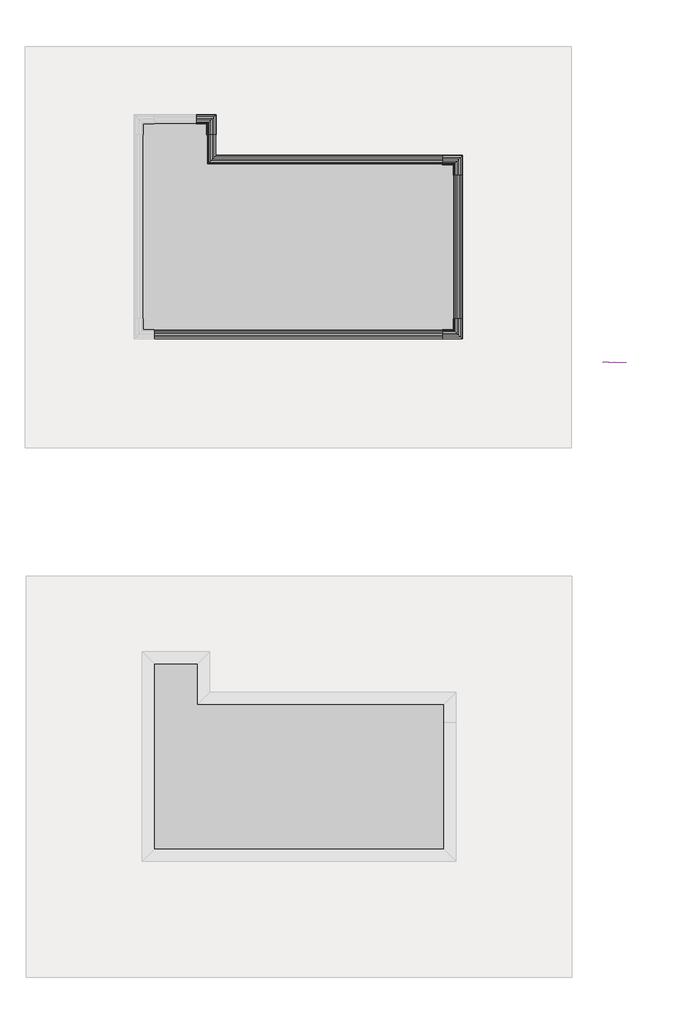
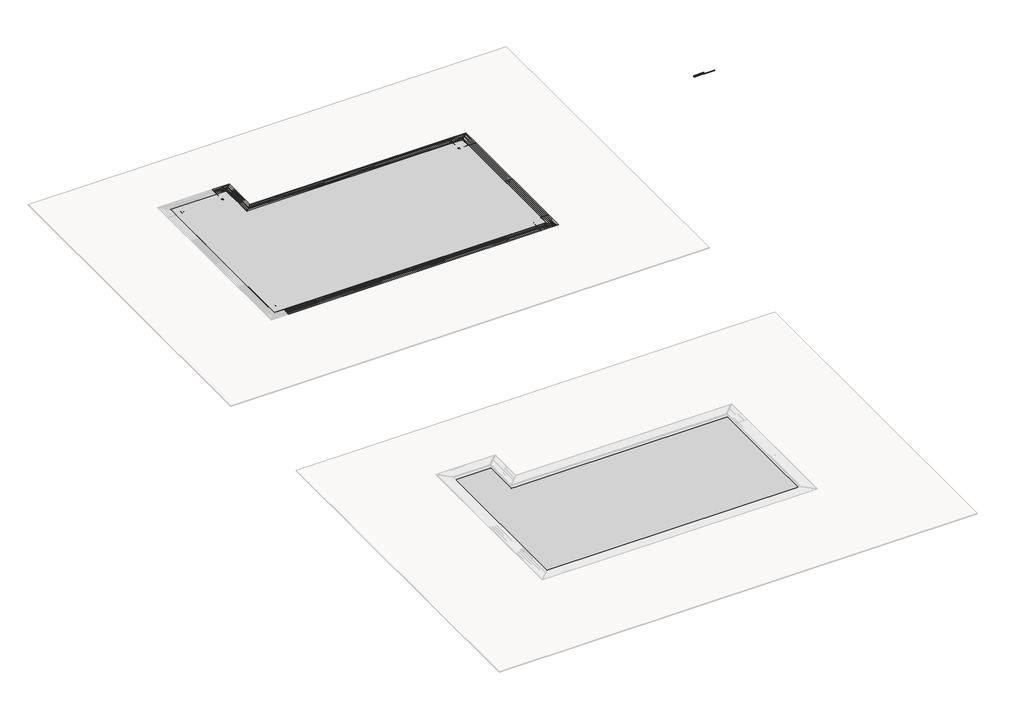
# One storey, part 7 of 8: 26 proxies.
"""IFC4 building model written with IfcOpenShell, lengths in millimetres."""

from ifc_helpers import new_model, si_unit, point, frame, frame_2d, origin, place, context, project, spatial, polyline, circle_curve, ellipse_curve, trimmed, segment, composite_curve, outline, extrude, faceted_brep, transform, mapped, element, save
from ifc_brep_helpers import plane_surface, revolved_surface, advanced_brep
from components import agua_piscina_11_agua_piscina_6_506d59ae, agua_piscina_7_agua_piscina_6_53fddf8e, roca_polar_33x3cm_504bcb03, roca_polar_33x4cm_2db79b40, roca_polar_33x4cm_158b5dbd, roca_polar_33x4cm_2f643e7a, roca_polar_33x4cm_c740a98f, roca_polar_33x4cm_f0a25715, roca_polar_33x4cm_b073b66c, roca_polar_33x4cm_9eef97b5, roca_polar_33x4cm_217610f2, roca_polar_4x4cm_b0f7cce5, roca_polar_corner_33x33cm_grating_24_5x33cm_6b5bcf94

model = new_model("IFC4")

# Units and contexts
model_context = context("Model", 3, world=origin())
ifc_project = project(units=[si_unit("LENGTHUNIT", "METRE", prefix="MILLI")], contexts=[model_context])

# Site, building, storey
site = spatial("IfcSite", under=ifc_project)
building = spatial("IfcBuilding", under=site)
storey = spatial("IfcBuildingStorey", under=building, Name="EXAGRES_ROCA POLAR Series_Pool_Examples", Elevation=14000.0)

# Proxies
placement = place(None, origin())
element("IfcBuildingElementProxy", 1, Name="Wall Sweeps", at=placement, inside=storey, context=model_context, shape_type="SweptSolid", body=[
    extrude(outline(polyline([(-5317.8185886, 13800.0), (-5127.8185886, 13800.0), (-5127.8185886, 14000.0), (-5097.8185886, 14000.0), (-5097.8185886, 13750.0), (-5347.8185886, 13750.0), (-5347.8185886, 14000.0), (-5317.8185886, 14000.0), (-5317.8185886, 13800.0)])), frame((14265.8202897, 0.0, 0.0), z_axis=(1.0, 0.0, 0.0), x_axis=(0.0, 1.0, 0.0)), (0.0, 0.0, 1.0), 6752.2),
])
element("IfcBuildingElementProxy", 2, Name="Wall Sweeps", at=placement, inside=storey, context=model_context, shape_type="AdvancedBrep", body=[
    advanced_brep(
    [(14721.9202897, -5147.8185886, 14015.0), (14716.9202897, -5152.8185886, 14015.0), (14701.9202897, -5167.8185886, 14000.0), (14641.9202897, -5227.8185886, 14000.0), (14626.9202897, -5242.8185886, 14015.0), (14621.9202897, -5247.8185886, 14015.0), (14606.9202897, -5262.8185886, 14000.0), (14546.4202897, -5323.3185886, 14000.0), (14546.4202897, -5323.3185886, 14011.0), (14538.9202897, -5330.8185886, 14011.0), (14538.9202897, -5330.8185886, 14000.0), (14526.9202897, -5342.8185886, 14000.0), (14526.9202897, -5342.8185886, 14015.0), (14533.4202897, -5336.3185886, 14030.0), (14572.9202897, -5296.8185886, 14030.0), (14571.9202897, -5297.8185886, 14019.0), (14566.9202897, -5302.8185886, 14019.0), (14566.9202897, -5302.8185886, 14011.0), (14586.9202897, -5282.8185886, 14011.0), (14586.9202897, -5282.8185886, 14019.0), (14581.9202897, -5287.8185886, 14019.0), (14580.9202897, -5288.8185886, 14030.0), (14620.4202897, -5249.3185886, 14030.0), (14620.4202897, -5249.3185886, 14025.0), (14628.4202897, -5241.3185886, 14025.0), (14628.4202897, -5241.3185886, 14030.0), (14667.9202897, -5201.8185886, 14030.0), (14666.9202897, -5202.8185886, 14019.0), (14661.9202897, -5207.8185886, 14019.0), (14661.9202897, -5207.8185886, 14011.0), (14681.9202897, -5187.8185886, 14011.0), (14681.9202897, -5187.8185886, 14019.0), (14676.9202897, -5192.8185886, 14019.0), (14675.9202897, -5193.8185886, 14030.0), (14715.4202897, -5154.3185886, 14030.0), (14715.4202897, -5154.3185886, 14025.0), (14723.4202897, -5146.3185886, 14025.0), (14723.4202897, -5146.3185886, 14030.0), (14762.9202897, -5106.8185886, 14030.0), (14762.9202897, -5106.8185886, 14019.0), (14744.4202897, -5125.3185886, 14019.0), (14744.4202897, -5125.3185886, 14011.0), (14766.9202897, -5102.8185886, 14011.0), (14766.9202897, -5102.8185886, 14000.0), (14736.9202897, -5132.8185886, 14000.0), (21018.0202897, -5147.8185886, 14015.0), (21018.0202897, -5132.8185886, 14000.0), (21018.0202897, -5102.8185886, 14000.0), (21018.0202897, -5102.8185886, 14011.0), (21018.0202897, -5125.3185886, 14011.0), (21018.0202897, -5125.3185886, 14019.0), (21018.0202897, -5106.8185886, 14019.0), (21018.0202897, -5106.8185886, 14030.0), (21018.0202897, -5146.3185886, 14030.0), (21018.0202897, -5146.3185886, 14025.0), (21018.0202897, -5154.3185886, 14025.0), (21018.0202897, -5154.3185886, 14030.0), (21018.0202897, -5193.8185886, 14030.0), (21018.0202897, -5192.8185886, 14019.0), (21018.0202897, -5187.8185886, 14019.0), (21018.0202897, -5187.8185886, 14011.0), (21018.0202897, -5207.8185886, 14011.0), (21018.0202897, -5207.8185886, 14019.0), (21018.0202897, -5202.8185886, 14019.0), (21018.0202897, -5201.8185886, 14030.0), (21018.0202897, -5241.3185886, 14030.0), (21018.0202897, -5241.3185886, 14025.0), (21018.0202897, -5249.3185886, 14025.0), (21018.0202897, -5249.3185886, 14030.0), (21018.0202897, -5288.8185886, 14030.0), (21018.0202897, -5287.8185886, 14019.0), (21018.0202897, -5282.8185886, 14019.0), (21018.0202897, -5282.8185886, 14011.0), (21018.0202897, -5302.8185886, 14011.0), (21018.0202897, -5302.8185886, 14019.0), (21018.0202897, -5297.8185886, 14019.0), (21018.0202897, -5296.8185886, 14030.0), (21018.0202897, -5336.3185886, 14030.0), (21018.0202897, -5342.8185886, 14015.0), (21018.0202897, -5342.8185886, 14000.0), (21018.0202897, -5330.8185886, 14000.0), (21018.0202897, -5330.8185886, 14011.0), (21018.0202897, -5323.3185886, 14011.0), (21018.0202897, -5323.3185886, 14000.0), (21018.0202897, -5262.8185886, 14000.0), (21018.0202897, -5247.8185886, 14015.0), (21018.0202897, -5242.8185886, 14015.0), (21018.0202897, -5227.8185886, 14000.0), (21018.0202897, -5167.8185886, 14000.0), (21018.0202897, -5152.8185886, 14015.0)],
    [
        (0, 1),
        (1, 2, ellipse_curve(frame((14716.9202897, -5152.8185886, 14000.0), z_axis=(0.7071067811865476, -0.7071067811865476, 0.0), x_axis=(0.7071067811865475, 0.7071067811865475, 0.0)), 21.2132034, 15.0)),
        (2, 3),
        (3, 4, ellipse_curve(frame((14626.9202897, -5242.8185886, 14000.0), z_axis=(0.7071067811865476, -0.7071067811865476, 0.0), x_axis=(0.7071067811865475, 0.7071067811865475, 0.0)), 21.2132034, 15.0)),
        (4, 5),
        (5, 6, ellipse_curve(frame((14621.9202897, -5247.8185886, 14000.0), z_axis=(0.7071067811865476, -0.7071067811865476, 0.0), x_axis=(0.7071067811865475, 0.7071067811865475, 0.0)), 21.2132034, 15.0)),
        (6, 7),
        (7, 8),
        (8, 9, ellipse_curve(frame((14542.6702897, -5327.0685886, 14011.0), z_axis=(0.7071067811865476, -0.7071067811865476, 0.0), x_axis=(0.7071067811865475, 0.7071067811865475, 0.0)), 5.3033009, 3.75)),
        (9, 10),
        (10, 11),
        (11, 12),
        (12, 13),
        (13, 14),
        (14, 15),
        (15, 16),
        (16, 17),
        (17, 18),
        (18, 19),
        (19, 20),
        (20, 21),
        (21, 22),
        (22, 23),
        (23, 24),
        (24, 25),
        (25, 26),
        (26, 27),
        (27, 28),
        (28, 29),
        (29, 30),
        (30, 31),
        (31, 32),
        (32, 33),
        (33, 34),
        (34, 35),
        (35, 36),
        (36, 37),
        (37, 38),
        (38, 39),
        (39, 40),
        (40, 41),
        (41, 42),
        (42, 43),
        (43, 44),
        (44, 0, ellipse_curve(frame((14721.9202897, -5147.8185886, 14000.0), z_axis=(0.7071067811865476, -0.7071067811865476, 0.0), x_axis=(0.7071067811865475, 0.7071067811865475, 0.0)), 21.2132034, 15.0)),
        (45, 46, circle_curve(frame((21018.0202897, -5147.8185886, 14000.0), z_axis=(-1.0, 0.0, 0.0), x_axis=(0.0, 1.0, 0.0)), 15.0)),
        (46, 47),
        (47, 48),
        (48, 49),
        (49, 50),
        (50, 51),
        (51, 52),
        (52, 53),
        (53, 54),
        (54, 55),
        (55, 56),
        (56, 57),
        (57, 58),
        (58, 59),
        (59, 60),
        (60, 61),
        (61, 62),
        (62, 63),
        (63, 64),
        (64, 65),
        (65, 66),
        (66, 67),
        (67, 68),
        (68, 69),
        (69, 70),
        (70, 71),
        (71, 72),
        (72, 73),
        (73, 74),
        (74, 75),
        (75, 76),
        (76, 77),
        (77, 78),
        (78, 79),
        (79, 80),
        (80, 81),
        (81, 82, circle_curve(frame((21018.0202897, -5327.0685886, 14011.0), z_axis=(-1.0, 0.0, 0.0), x_axis=(0.0, 1.0, 0.0)), 3.75)),
        (82, 83),
        (83, 84),
        (84, 85, circle_curve(frame((21018.0202897, -5247.8185886, 14000.0), z_axis=(-1.0, 0.0, 0.0), x_axis=(0.0, 0.0, 1.0)), 15.0)),
        (85, 86),
        (86, 87, circle_curve(frame((21018.0202897, -5242.8185886, 14000.0), z_axis=(-1.0, 0.0, 0.0), x_axis=(0.0, 1.0, 0.0)), 15.0)),
        (87, 88),
        (88, 89, circle_curve(frame((21018.0202897, -5152.8185886, 14000.0), z_axis=(-1.0, 0.0, 0.0), x_axis=(0.0, 0.0, 1.0)), 15.0)),
        (89, 45),
        (0, 45),
        (89, 1),
        (88, 2),
        (87, 3),
        (86, 4),
        (85, 5),
        (84, 6),
        (83, 7),
        (82, 8),
        (81, 9),
        (80, 10),
        (79, 11),
        (78, 12),
        (77, 13),
        (76, 14),
        (75, 15),
        (74, 16),
        (73, 17),
        (72, 18),
        (71, 19),
        (70, 20),
        (69, 21),
        (68, 22),
        (67, 23),
        (66, 24),
        (65, 25),
        (64, 26),
        (63, 27),
        (62, 28),
        (61, 29),
        (60, 30),
        (59, 31),
        (58, 32),
        (57, 33),
        (56, 34),
        (55, 35),
        (54, 36),
        (53, 37),
        (52, 38),
        (51, 39),
        (50, 40),
        (49, 41),
        (48, 42),
        (47, 43),
        (46, 44),
    ],
    [
        plane_surface(frame((14241.9202897, -5627.8185886, 13695.2), z_axis=(-0.7071067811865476, 0.7071067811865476, 0.0), x_axis=(0.7071067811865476, 0.7071067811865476, 0.0))),
        plane_surface(frame((21018.0202897, -5627.8185886, 13474.8847745), z_axis=(1.0, 0.0, 0.0), x_axis=(0.0, 1.0, 0.0))),
        plane_surface(frame((14721.9202897, -5147.8185886, 14015.0), z_axis=(0.0, 0.0, -1.0), x_axis=(1.0, 0.0, 0.0))),
        revolved_surface(polyline([(21018.0202897, -5152.8185886, 14015.0), (14701.9202897, -5152.8185886, 14015.0)]), (14241.9202897, -5152.8185886, 14000.0), (1.0, 0.0, 0.0)),
        plane_surface(frame((14701.9202897, -5167.8185886, 14000.0), z_axis=(0.0, 0.0, -1.0), x_axis=(1.0, 0.0, 0.0))),
        revolved_surface(polyline([(21018.0202897, -5227.8185886, 14000.0), (14611.92028972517, -5227.8185886, 14000.0)]), (14241.9202897, -5242.8185886, 14000.0), (1.0, 0.0, 0.0)),
        plane_surface(frame((14626.9202897, -5242.8185886, 14015.0), z_axis=(0.0, 0.0, -1.0), x_axis=(1.0, 0.0, 0.0))),
        revolved_surface(polyline([(21018.0202897, -5247.8185886, 14015.0), (14606.9202897, -5247.8185886, 14015.0)]), (14241.9202897, -5247.8185886, 14000.0), (1.0, 0.0, 0.0)),
        plane_surface(frame((14606.9202897, -5262.8185886, 14000.0), z_axis=(0.0, 0.0, -1.0), x_axis=(1.0, 0.0, 0.0))),
        plane_surface(frame((14546.4202897, -5323.3185886, 14000.0), z_axis=(0.0, -1.0, 0.0), x_axis=(1.0, 0.0, 0.0))),
        revolved_surface(polyline([(21018.0202897, -5323.3185886, 14011.0), (14538.920289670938, -5323.3185886, 14011.0)]), (14241.9202897, -5327.0685886, 14011.0), (1.0, 0.0, 0.0)),
        plane_surface(frame((14538.9202897, -5330.8185886, 14011.0), z_axis=(0.0, 1.0, 0.0), x_axis=(1.0, 0.0, 0.0))),
        plane_surface(frame((14538.9202897, -5330.8185886, 14000.0), z_axis=(0.0, 0.0, -1.0), x_axis=(1.0, 0.0, 0.0))),
        plane_surface(frame((14526.9202897, -5342.8185886, 14000.0), z_axis=(0.0, -1.0, 0.0), x_axis=(1.0, 0.0, 0.0))),
        plane_surface(frame((14526.9202897, -5342.8185886, 14015.0), z_axis=(0.0, -0.9175556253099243, 0.3976074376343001), x_axis=(1.0, 0.0, 0.0))),
        plane_surface(frame((14533.4202897, -5336.3185886, 14030.0), z_axis=(0.0, 0.0, 1.0), x_axis=(1.0, 0.0, 0.0))),
        plane_surface(frame((14572.9202897, -5296.8185886, 14030.0), z_axis=(0.0, 0.9958932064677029, -0.09053574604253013), x_axis=(1.0, 0.0, 0.0))),
        plane_surface(frame((14571.9202897, -5297.8185886, 14019.0), z_axis=(0.0, 0.0, -1.0), x_axis=(1.0, 0.0, 0.0))),
        plane_surface(frame((14566.9202897, -5302.8185886, 14019.0), z_axis=(0.0, 1.0, 0.0), x_axis=(1.0, 0.0, 0.0))),
        plane_surface(frame((14566.9202897, -5302.8185886, 14011.0), z_axis=(0.0, 0.0, 1.0), x_axis=(1.0, 0.0, 0.0))),
        plane_surface(frame((14586.9202897, -5282.8185886, 14011.0), z_axis=(0.0, -1.0, 0.0), x_axis=(1.0, 0.0, 0.0))),
        plane_surface(frame((14586.9202897, -5282.8185886, 14019.0), z_axis=(0.0, 0.0, -1.0), x_axis=(1.0, 0.0, 0.0))),
        plane_surface(frame((14581.9202897, -5287.8185886, 14019.0), z_axis=(0.0, -0.995893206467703, -0.09053574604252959), x_axis=(1.0, 0.0, 0.0))),
        plane_surface(frame((14580.9202897, -5288.8185886, 14030.0), z_axis=(0.0, 0.0, 1.0), x_axis=(1.0, 0.0, 0.0))),
        plane_surface(frame((14620.4202897, -5249.3185886, 14030.0), z_axis=(0.0, 1.0, 0.0), x_axis=(1.0, 0.0, 0.0))),
        plane_surface(frame((14620.4202897, -5249.3185886, 14025.0), z_axis=(0.0, 0.0, 1.0), x_axis=(1.0, 0.0, 0.0))),
        plane_surface(frame((14628.4202897, -5241.3185886, 14025.0), z_axis=(0.0, -1.0, 0.0), x_axis=(1.0, 0.0, 0.0))),
        plane_surface(frame((14628.4202897, -5241.3185886, 14030.0), z_axis=(0.0, 0.0, 1.0), x_axis=(1.0, 0.0, 0.0))),
        plane_surface(frame((14667.9202897, -5201.8185886, 14030.0), z_axis=(0.0, 0.9958932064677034, -0.09053574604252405), x_axis=(1.0, 0.0, 0.0))),
        plane_surface(frame((14666.9202897, -5202.8185886, 14019.0), z_axis=(0.0, 0.0, -1.0), x_axis=(1.0, 0.0, 0.0))),
        plane_surface(frame((14661.9202897, -5207.8185886, 14019.0), z_axis=(0.0, 1.0, 0.0), x_axis=(1.0, 0.0, 0.0))),
        plane_surface(frame((14661.9202897, -5207.8185886, 14011.0), z_axis=(0.0, 0.0, 1.0), x_axis=(1.0, 0.0, 0.0))),
        plane_surface(frame((14681.9202897, -5187.8185886, 14011.0), z_axis=(0.0, -1.0, 0.0), x_axis=(1.0, 0.0, 0.0))),
        plane_surface(frame((14681.9202897, -5187.8185886, 14019.0), z_axis=(0.0, 0.0, -1.0), x_axis=(1.0, 0.0, 0.0))),
        plane_surface(frame((14676.9202897, -5192.8185886, 14019.0), z_axis=(0.0, -0.995893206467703, -0.09053574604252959), x_axis=(1.0, 0.0, 0.0))),
        plane_surface(frame((14675.9202897, -5193.8185886, 14030.0), z_axis=(0.0, 0.0, 1.0), x_axis=(1.0, 0.0, 0.0))),
        plane_surface(frame((14715.4202897, -5154.3185886, 14030.0), z_axis=(0.0, 1.0, 0.0), x_axis=(1.0, 0.0, 0.0))),
        plane_surface(frame((14715.4202897, -5154.3185886, 14025.0), z_axis=(0.0, 0.0, 1.0), x_axis=(1.0, 0.0, 0.0))),
        plane_surface(frame((14723.4202897, -5146.3185886, 14025.0), z_axis=(0.0, -1.0, 0.0), x_axis=(1.0, 0.0, 0.0))),
        plane_surface(frame((14723.4202897, -5146.3185886, 14030.0), z_axis=(0.0, 0.0, 1.0), x_axis=(1.0, 0.0, 0.0))),
        plane_surface(frame((14762.9202897, -5106.8185886, 14030.0), z_axis=(0.0, 1.0, 0.0), x_axis=(1.0, 0.0, 0.0))),
        plane_surface(frame((14762.9202897, -5106.8185886, 14019.0), z_axis=(0.0, 0.0, -1.0), x_axis=(1.0, 0.0, 0.0))),
        plane_surface(frame((14744.4202897, -5125.3185886, 14019.0), z_axis=(0.0, 1.0, 0.0), x_axis=(1.0, 0.0, 0.0))),
        plane_surface(frame((14744.4202897, -5125.3185886, 14011.0), z_axis=(0.0, 0.0, 1.0), x_axis=(1.0, 0.0, 0.0))),
        plane_surface(frame((14766.9202897, -5102.8185886, 14011.0), z_axis=(0.0, 1.0, 0.0), x_axis=(1.0, 0.0, 0.0))),
        plane_surface(frame((14766.9202897, -5102.8185886, 14000.0), z_axis=(0.0, 0.0, -1.0), x_axis=(1.0, 0.0, 0.0))),
        revolved_surface(polyline([(21018.0202897, -5132.8185886, 14000.0), (14706.92028972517, -5132.8185886, 14000.0)]), (14241.9202897, -5147.8185886, 14000.0), (1.0, 0.0, 0.0)),
    ],
    [
        (0, [[1, 2, 3, 4, 5, 6, 7, 8, 9, 10, 11, 12, 13, 14, 15, 16, 17, 18, 19, 20, 21, 22, 23, 24, 25, 26, 27, 28, 29, 30, 31, 32, 33, 34, 35, 36, 37, 38, 39, 40, 41, 42, 43, 44, 45]]),
        (1, [[46, 47, 48, 49, 50, 51, 52, 53, 54, 55, 56, 57, 58, 59, 60, 61, 62, 63, 64, 65, 66, 67, 68, 69, 70, 71, 72, 73, 74, 75, 76, 77, 78, 79, 80, 81, 82, 83, 84, 85, 86, 87, 88, 89, 90]]),
        (2, [[-1, 91, -90, 92]]),
        (3, [[-2, -92, -89, 93]]),
        (4, [[-3, -93, -88, 94]]),
        (5, [[-4, -94, -87, 95]]),
        (6, [[-5, -95, -86, 96]]),
        (7, [[-6, -96, -85, 97]]),
        (8, [[-7, -97, -84, 98]]),
        (9, [[-8, -98, -83, 99]]),
        (10, [[-9, -99, -82, 100]]),
        (11, [[-10, -100, -81, 101]]),
        (12, [[-11, -101, -80, 102]]),
        (13, [[-12, -102, -79, 103]]),
        (14, [[-13, -103, -78, 104]]),
        (15, [[-14, -104, -77, 105]]),
        (16, [[-15, -105, -76, 106]]),
        (17, [[-16, -106, -75, 107]]),
        (18, [[-17, -107, -74, 108]]),
        (19, [[-18, -108, -73, 109]]),
        (20, [[-19, -109, -72, 110]]),
        (21, [[-20, -110, -71, 111]]),
        (22, [[-21, -111, -70, 112]]),
        (23, [[-22, -112, -69, 113]]),
        (24, [[-23, -113, -68, 114]]),
        (25, [[-24, -114, -67, 115]]),
        (26, [[-25, -115, -66, 116]]),
        (27, [[-26, -116, -65, 117]]),
        (28, [[-27, -117, -64, 118]]),
        (29, [[-28, -118, -63, 119]]),
        (30, [[-29, -119, -62, 120]]),
        (31, [[-30, -120, -61, 121]]),
        (32, [[-31, -121, -60, 122]]),
        (33, [[-32, -122, -59, 123]]),
        (34, [[-33, -123, -58, 124]]),
        (35, [[-34, -124, -57, 125]]),
        (36, [[-35, -125, -56, 126]]),
        (37, [[-36, -126, -55, 127]]),
        (38, [[-37, -127, -54, 128]]),
        (39, [[-38, -128, -53, 129]]),
        (40, [[-39, -129, -52, 130]]),
        (41, [[-40, -130, -51, 131]]),
        (42, [[-41, -131, -50, 132]]),
        (43, [[-42, -132, -49, 133]]),
        (44, [[-43, -133, -48, 134]]),
        (45, [[-44, -134, -47, 135]]),
        (46, [[-45, -135, -46, -91]]),
    ],
),
])
element("IfcBuildingElementProxy", 3, Name="Wall Sweeps", at=placement, inside=storey, context=model_context, shape_type="Brep", body=[
    faceted_brep([(14271.9202897, -5597.8185886, 13546.2592037), (14271.9202897, -5597.8185886, 14000.0), (14521.9202897, -5347.8185886, 14000.0), (14521.9202897, -5347.8185886, 13750.0), (14771.9202897, -5097.8185886, 13750.0), (14771.9202897, -5097.8185886, 13644.7108891), (14471.9202897, -5397.8185886, 13546.2592037), (21018.0202897, -5597.8185886, 13546.2592037), (21018.0202897, -5397.8185886, 13546.2592037), (21018.0202897, -5097.8185886, 13644.7108891), (21018.0202897, -5097.8185886, 13750.0), (21018.0202897, -5347.8185886, 13750.0), (21018.0202897, -5347.8185886, 14000.0), (21018.0202897, -5597.8185886, 14000.0), (14771.9202897, -5597.8185886, 14000.0), (14741.9202897, -5597.8185886, 14000.0), (14551.9202897, -5597.8185886, 14000.0), (14521.9202897, -5597.8185886, 14000.0)], [[[0, 1, 2, 3, 4, 5, 6]], [[7, 8, 9, 10, 11, 12, 13]], [[1, 0, 7, 13, 14, 15, 16, 17]], [[2, 1, 17, 16, 15, 14, 13, 12]], [[3, 2, 12, 11]], [[4, 3, 11, 10]], [[5, 4, 10, 9]], [[6, 5, 9, 8]], [[0, 6, 8, 7]]]),
])
element("IfcBuildingElementProxy", 4, Name="Wall Sweeps", at=placement, inside=storey, context=model_context, shape_type="SweptSolid", body=[
    extrude(outline(polyline([(13800.0, 21351.9202897), (14000.0, 21351.9202897), (14000.0, 21321.9202897), (13750.0, 21321.9202897), (13750.0, 21571.9202897), (14000.0, 21571.9202897), (14000.0, 21541.9202897), (13800.0, 21541.9202897), (13800.0, 21351.9202897)])), frame((0.0, -9603.9185886, 0.0), z_axis=(0.0, 1.0, 0.0), x_axis=(0.0, 0.0, 1.0)), (0.0, 0.0, 1.0), 3952.2),
])
element("IfcBuildingElementProxy", 5, Name="Wall Sweeps", at=placement, inside=storey, context=model_context, shape_type="SweptSolid", body=[
    extrude(outline(composite_curve([segment(trimmed(circle_curve(frame_2d((14000.0, 21521.9202897)), 15.0), [point((14015.0, 21521.9202897))], [point((14000.0, 21536.9202897))], True, "CARTESIAN"), True, "CONTINUOUS"), segment(polyline([(14000.0, 21536.9202897), (14000.0, 21566.9202897), (14011.0, 21566.9202897), (14011.0, 21544.4202897), (14019.0, 21544.4202897), (14019.0, 21562.9202897), (14030.0, 21562.9202897), (14030.0, 21523.4202897), (14025.0, 21523.4202897), (14025.0, 21515.4202897), (14030.0, 21515.4202897), (14030.0, 21475.9202897), (14019.0, 21476.9202897), (14019.0, 21481.9202897), (14011.0, 21481.9202897), (14011.0, 21461.9202897), (14019.0, 21461.9202897), (14019.0, 21466.9202897), (14030.0, 21467.9202897), (14030.0, 21428.4202897), (14025.0, 21428.4202897), (14025.0, 21420.4202897), (14030.0, 21420.4202897), (14030.0, 21380.9202897), (14019.0, 21381.9202897), (14019.0, 21386.9202897), (14011.0, 21386.9202897), (14011.0, 21366.9202897), (14019.0, 21366.9202897), (14019.0, 21371.9202897), (14030.0, 21372.9202897), (14030.0, 21333.4202897), (14015.0, 21326.9202897), (14000.0, 21326.9202897), (14000.0, 21338.9202897), (14011.0, 21338.9202897)]), True, "CONTINUOUS"), segment(trimmed(circle_curve(frame_2d((14011.0, 21342.6702897)), 3.75), [point((14011.0, 21338.9202897))], [point((14011.0, 21346.4202897))], True, "CARTESIAN"), True, "CONTINUOUS"), segment(polyline([(14011.0, 21346.4202897), (14000.0, 21346.4202897), (14000.0, 21406.9202897)]), True, "CONTINUOUS"), segment(trimmed(circle_curve(frame_2d((14000.0, 21421.9202897)), 15.0), [point((14000.0, 21406.9202897))], [point((14015.0, 21421.9202897))], True, "CARTESIAN"), True, "CONTINUOUS"), segment(polyline([(14015.0, 21421.9202897), (14015.0, 21426.9202897)]), True, "CONTINUOUS"), segment(trimmed(circle_curve(frame_2d((14000.0, 21426.9202897)), 15.0), [point((14015.0, 21426.9202897))], [point((14000.0, 21441.9202897))], True, "CARTESIAN"), True, "CONTINUOUS"), segment(polyline([(14000.0, 21441.9202897), (14000.0, 21501.9202897)]), True, "CONTINUOUS"), segment(trimmed(circle_curve(frame_2d((14000.0, 21516.9202897)), 15.0), [point((14000.0, 21501.9202897))], [point((14015.0, 21516.9202897))], True, "CARTESIAN"), True, "CONTINUOUS"), segment(polyline([(14015.0, 21516.9202897), (14015.0, 21521.9202897)]), True, "CONTINUOUS")], self_intersect=False)), frame((0.0, -9603.9185886, 0.0), z_axis=(0.0, 1.0, 0.0), x_axis=(0.0, 0.0, 1.0)), (0.0, 0.0, 1.0), 3952.2),
])
element("IfcBuildingElementProxy", 6, Name="Wall Sweeps", at=placement, inside=storey, context=model_context, shape_type="SweptSolid", body=[
    extrude(outline(polyline([(13546.2592037, 21071.9202897), (13546.2592037, 21271.9202897), (13644.7108891, 21571.9202897), (13750.0, 21571.9202897), (13750.0, 21321.9202897), (14000.0, 21321.9202897), (14000.0, 21071.9202897), (13546.2592037, 21071.9202897)])), frame((0.0, -9603.9185886, 0.0), z_axis=(0.0, 1.0, 0.0), x_axis=(0.0, 0.0, 1.0)), (0.0, 0.0, 1.0), 3952.2),
])
element("IfcBuildingElementProxy", 7, Name="Wall Sweeps", at=placement, inside=storey, context=model_context, shape_type="SweptSolid", body=[
    extrude(outline(polyline([(-9937.8185886, 13800.0), (-9937.8185886, 14000.0), (-9907.8185886, 14000.0), (-9907.8185886, 13750.0), (-10157.8185886, 13750.0), (-10157.8185886, 14000.0), (-10127.8185886, 14000.0), (-10127.8185886, 13800.0), (-9937.8185886, 13800.0)])), frame((13065.8202897, 0.0, 0.0), z_axis=(1.0, 0.0, 0.0), x_axis=(0.0, 1.0, 0.0)), (0.0, 0.0, 1.0), 7952.2),
])
element("IfcBuildingElementProxy", 8, Name="Wall Sweeps", at=placement, inside=storey, context=model_context, shape_type="SweptSolid", body=[
    extrude(outline(composite_curve([segment(trimmed(circle_curve(frame_2d((-10107.8185886, 14000.0)), 15.0), [point((-10107.8185886, 14015.0))], [point((-10122.8185886, 14000.0))], True, "CARTESIAN"), True, "CONTINUOUS"), segment(polyline([(-10122.8185886, 14000.0), (-10152.8185886, 14000.0), (-10152.8185886, 14011.0), (-10130.3185886, 14011.0), (-10130.3185886, 14019.0), (-10148.8185886, 14019.0), (-10148.8185886, 14030.0), (-10109.3185886, 14030.0), (-10109.3185886, 14025.0), (-10101.3185886, 14025.0), (-10101.3185886, 14030.0), (-10061.8185886, 14030.0), (-10062.8185886, 14019.0), (-10067.8185886, 14019.0), (-10067.8185886, 14011.0), (-10047.8185886, 14011.0), (-10047.8185886, 14019.0), (-10052.8185886, 14019.0), (-10053.8185886, 14030.0), (-10014.3185886, 14030.0), (-10014.3185886, 14025.0), (-10006.3185886, 14025.0), (-10006.3185886, 14030.0), (-9966.8185886, 14030.0), (-9967.8185886, 14019.0), (-9972.8185886, 14019.0), (-9972.8185886, 14011.0), (-9952.8185886, 14011.0), (-9952.8185886, 14019.0), (-9957.8185886, 14019.0), (-9958.8185886, 14030.0), (-9919.3185886, 14030.0), (-9912.8185886, 14015.0), (-9912.8185886, 14000.0), (-9924.8185886, 14000.0), (-9924.8185886, 14011.0)]), True, "CONTINUOUS"), segment(trimmed(circle_curve(frame_2d((-9928.5685886, 14011.0)), 3.75), [point((-9924.8185886, 14011.0))], [point((-9932.3185886, 14011.0))], True, "CARTESIAN"), True, "CONTINUOUS"), segment(polyline([(-9932.3185886, 14011.0), (-9932.3185886, 14000.0), (-9992.8185886, 14000.0)]), True, "CONTINUOUS"), segment(trimmed(circle_curve(frame_2d((-10007.8185886, 14000.0)), 15.0), [point((-9992.8185886, 14000.0))], [point((-10007.8185886, 14015.0))], True, "CARTESIAN"), True, "CONTINUOUS"), segment(polyline([(-10007.8185886, 14015.0), (-10012.8185886, 14015.0)]), True, "CONTINUOUS"), segment(trimmed(circle_curve(frame_2d((-10012.8185886, 14000.0)), 15.0), [point((-10012.8185886, 14015.0))], [point((-10027.8185886, 14000.0))], True, "CARTESIAN"), True, "CONTINUOUS"), segment(polyline([(-10027.8185886, 14000.0), (-10087.8185886, 14000.0)]), True, "CONTINUOUS"), segment(trimmed(circle_curve(frame_2d((-10102.8185886, 14000.0)), 15.0), [point((-10087.8185886, 14000.0))], [point((-10102.8185886, 14015.0))], True, "CARTESIAN"), True, "CONTINUOUS"), segment(polyline([(-10102.8185886, 14015.0), (-10107.8185886, 14015.0)]), True, "CONTINUOUS")], self_intersect=False)), frame((13065.8202897, 0.0, 0.0), z_axis=(1.0, 0.0, 0.0), x_axis=(0.0, 1.0, 0.0)), (0.0, 0.0, 1.0), 7952.2),
])
element("IfcBuildingElementProxy", 9, Name="Wall Sweeps", at=placement, inside=storey, context=model_context, shape_type="SweptSolid", body=[
    extrude(outline(polyline([(-9657.8185886, 13546.2592037), (-9857.8185886, 13546.2592037), (-10157.8185886, 13644.7108891), (-10157.8185886, 13750.0), (-9907.8185886, 13750.0), (-9907.8185886, 14000.0), (-9657.8185886, 14000.0), (-9657.8185886, 13546.2592037)])), frame((13065.8202897, 0.0, 0.0), z_axis=(1.0, 0.0, 0.0), x_axis=(0.0, 1.0, 0.0)), (0.0, 0.0, 1.0), 7952.2),
])
element("IfcBuildingElementProxy", 10, Name="Wall Sweeps", at=placement, inside=storey, context=model_context, shape_type="AdvancedBrep", body=[
    advanced_brep(
    [(14721.9202897, -5147.8185886, 14015.0), (14736.9202897, -5132.8185886, 14000.0), (14766.9202897, -5102.8185886, 14000.0), (14766.9202897, -5102.8185886, 14011.0), (14744.4202897, -5125.3185886, 14011.0), (14744.4202897, -5125.3185886, 14019.0), (14762.9202897, -5106.8185886, 14019.0), (14762.9202897, -5106.8185886, 14030.0), (14723.4202897, -5146.3185886, 14030.0), (14723.4202897, -5146.3185886, 14025.0), (14715.4202897, -5154.3185886, 14025.0), (14715.4202897, -5154.3185886, 14030.0), (14675.9202897, -5193.8185886, 14030.0), (14676.9202897, -5192.8185886, 14019.0), (14681.9202897, -5187.8185886, 14019.0), (14681.9202897, -5187.8185886, 14011.0), (14661.9202897, -5207.8185886, 14011.0), (14661.9202897, -5207.8185886, 14019.0), (14666.9202897, -5202.8185886, 14019.0), (14667.9202897, -5201.8185886, 14030.0), (14628.4202897, -5241.3185886, 14030.0), (14628.4202897, -5241.3185886, 14025.0), (14620.4202897, -5249.3185886, 14025.0), (14620.4202897, -5249.3185886, 14030.0), (14580.9202897, -5288.8185886, 14030.0), (14581.9202897, -5287.8185886, 14019.0), (14586.9202897, -5282.8185886, 14019.0), (14586.9202897, -5282.8185886, 14011.0), (14566.9202897, -5302.8185886, 14011.0), (14566.9202897, -5302.8185886, 14019.0), (14571.9202897, -5297.8185886, 14019.0), (14572.9202897, -5296.8185886, 14030.0), (14533.4202897, -5336.3185886, 14030.0), (14526.9202897, -5342.8185886, 14015.0), (14526.9202897, -5342.8185886, 14000.0), (14538.9202897, -5330.8185886, 14000.0), (14538.9202897, -5330.8185886, 14011.0), (14546.4202897, -5323.3185886, 14011.0), (14546.4202897, -5323.3185886, 14000.0), (14606.9202897, -5262.8185886, 14000.0), (14621.9202897, -5247.8185886, 14015.0), (14626.9202897, -5242.8185886, 14015.0), (14641.9202897, -5227.8185886, 14000.0), (14701.9202897, -5167.8185886, 14000.0), (14716.9202897, -5152.8185886, 14015.0), (14721.9202897, -4531.7197013, 14015.0), (14716.9202897, -4531.7197013, 14015.0), (14701.9202897, -4531.7197013, 14000.0), (14641.9202897, -4531.7197013, 14000.0), (14626.9202897, -4531.7197013, 14015.0), (14621.9202897, -4531.7197013, 14015.0), (14606.9202897, -4531.7197013, 14000.0), (14546.4202897, -4531.7197013, 14000.0), (14546.4202897, -4531.7197013, 14011.0), (14538.9202897, -4531.7197013, 14011.0), (14538.9202897, -4531.7197013, 14000.0), (14526.9202897, -4531.7197013, 14000.0), (14526.9202897, -4531.7197013, 14015.0), (14533.4202897, -4531.7197013, 14030.0), (14572.9202897, -4531.7197013, 14030.0), (14571.9202897, -4531.7197013, 14019.0), (14566.9202897, -4531.7197013, 14019.0), (14566.9202897, -4531.7197013, 14011.0), (14586.9202897, -4531.7197013, 14011.0), (14586.9202897, -4531.7197013, 14019.0), (14581.9202897, -4531.7197013, 14019.0), (14580.9202897, -4531.7197013, 14030.0), (14620.4202897, -4531.7197013, 14030.0), (14620.4202897, -4531.7197013, 14025.0), (14628.4202897, -4531.7197013, 14025.0), (14628.4202897, -4531.7197013, 14030.0), (14667.9202897, -4531.7197013, 14030.0), (14666.9202897, -4531.7197013, 14019.0), (14661.9202897, -4531.7197013, 14019.0), (14661.9202897, -4531.7197013, 14011.0), (14681.9202897, -4531.7197013, 14011.0), (14681.9202897, -4531.7197013, 14019.0), (14676.9202897, -4531.7197013, 14019.0), (14675.9202897, -4531.7197013, 14030.0), (14715.4202897, -4531.7197013, 14030.0), (14715.4202897, -4531.7197013, 14025.0), (14723.4202897, -4531.7197013, 14025.0), (14723.4202897, -4531.7197013, 14030.0), (14762.9202897, -4531.7197013, 14030.0), (14762.9202897, -4531.7197013, 14019.0), (14744.4202897, -4531.7197013, 14019.0), (14744.4202897, -4531.7197013, 14011.0), (14766.9202897, -4531.7197013, 14011.0), (14766.9202897, -4531.7197013, 14000.0), (14736.9202897, -4531.7197013, 14000.0)],
    [
        (0, 1, ellipse_curve(frame((14721.9202897, -5147.8185886, 14000.0), z_axis=(-0.7071067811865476, 0.7071067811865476, 0.0), x_axis=(0.7071067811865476, 0.7071067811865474, 0.0)), 21.2132034, 15.0)),
        (1, 2),
        (2, 3),
        (3, 4),
        (4, 5),
        (5, 6),
        (6, 7),
        (7, 8),
        (8, 9),
        (9, 10),
        (10, 11),
        (11, 12),
        (12, 13),
        (13, 14),
        (14, 15),
        (15, 16),
        (16, 17),
        (17, 18),
        (18, 19),
        (19, 20),
        (20, 21),
        (21, 22),
        (22, 23),
        (23, 24),
        (24, 25),
        (25, 26),
        (26, 27),
        (27, 28),
        (28, 29),
        (29, 30),
        (30, 31),
        (31, 32),
        (32, 33),
        (33, 34),
        (34, 35),
        (35, 36),
        (36, 37, ellipse_curve(frame((14542.6702897, -5327.0685886, 14011.0), z_axis=(-0.7071067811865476, 0.7071067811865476, 0.0), x_axis=(0.7071067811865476, 0.7071067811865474, 0.0)), 5.3033009, 3.75)),
        (37, 38),
        (38, 39),
        (39, 40, ellipse_curve(frame((14621.9202897, -5247.8185886, 14000.0), z_axis=(-0.7071067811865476, 0.7071067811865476, 0.0), x_axis=(0.7071067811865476, 0.7071067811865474, 0.0)), 21.2132034, 15.0)),
        (40, 41),
        (41, 42, ellipse_curve(frame((14626.9202897, -5242.8185886, 14000.0), z_axis=(-0.7071067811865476, 0.7071067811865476, 0.0), x_axis=(0.7071067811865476, 0.7071067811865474, 0.0)), 21.2132034, 15.0)),
        (42, 43),
        (43, 44, ellipse_curve(frame((14716.9202897, -5152.8185886, 14000.0), z_axis=(-0.7071067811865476, 0.7071067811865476, 0.0), x_axis=(0.7071067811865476, 0.7071067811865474, 0.0)), 21.2132034, 15.0)),
        (44, 0),
        (45, 46),
        (46, 47, circle_curve(frame((14716.9202897, -4531.7197013, 14000.0), z_axis=(0.0, -1.0, 0.0), x_axis=(0.0, 0.0, 1.0)), 15.0)),
        (47, 48),
        (48, 49, circle_curve(frame((14626.9202897, -4531.7197013, 14000.0), z_axis=(0.0, -1.0, 0.0), x_axis=(1.0, 0.0, 0.0)), 15.0)),
        (49, 50),
        (50, 51, circle_curve(frame((14621.9202897, -4531.7197013, 14000.0), z_axis=(0.0, -1.0, 0.0), x_axis=(0.0, 0.0, 1.0)), 15.0)),
        (51, 52),
        (52, 53),
        (53, 54, circle_curve(frame((14542.6702897, -4531.7197013, 14011.0), z_axis=(0.0, -1.0, 0.0), x_axis=(1.0, 0.0, 0.0)), 3.75)),
        (54, 55),
        (55, 56),
        (56, 57),
        (57, 58),
        (58, 59),
        (59, 60),
        (60, 61),
        (61, 62),
        (62, 63),
        (63, 64),
        (64, 65),
        (65, 66),
        (66, 67),
        (67, 68),
        (68, 69),
        (69, 70),
        (70, 71),
        (71, 72),
        (72, 73),
        (73, 74),
        (74, 75),
        (75, 76),
        (76, 77),
        (77, 78),
        (78, 79),
        (79, 80),
        (80, 81),
        (81, 82),
        (82, 83),
        (83, 84),
        (84, 85),
        (85, 86),
        (86, 87),
        (87, 88),
        (88, 89),
        (89, 45, circle_curve(frame((14721.9202897, -4531.7197013, 14000.0), z_axis=(0.0, -1.0, 0.0), x_axis=(1.0, 0.0, 0.0)), 15.0)),
        (0, 45),
        (89, 1),
        (88, 2),
        (87, 3),
        (86, 4),
        (85, 5),
        (84, 6),
        (83, 7),
        (82, 8),
        (81, 9),
        (80, 10),
        (79, 11),
        (78, 12),
        (77, 13),
        (76, 14),
        (75, 15),
        (74, 16),
        (73, 17),
        (72, 18),
        (71, 19),
        (70, 20),
        (69, 21),
        (68, 22),
        (67, 23),
        (66, 24),
        (65, 25),
        (64, 26),
        (63, 27),
        (62, 28),
        (61, 29),
        (60, 30),
        (59, 31),
        (58, 32),
        (57, 33),
        (56, 34),
        (55, 35),
        (54, 36),
        (53, 37),
        (52, 38),
        (51, 39),
        (50, 40),
        (49, 41),
        (48, 42),
        (47, 43),
        (46, 44),
    ],
    [
        plane_surface(frame((14241.9202897, -5627.8185886, 14304.8), z_axis=(0.7071067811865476, -0.7071067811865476, 0.0), x_axis=(0.7071067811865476, 0.7071067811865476, 0.0))),
        plane_surface(frame((13716.8050643, -4531.7197013, 14000.0), z_axis=(0.0, 1.0, 0.0), x_axis=(0.0, 0.0, 1.0))),
        revolved_surface(polyline([(14736.9202897, -4531.7197013, 14000.0), (14736.9202897, -5162.81858857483, 14000.0)]), (14721.9202897, -5627.8185886, 14000.0), (0.0, 1.0, 0.0)),
        plane_surface(frame((14736.9202897, -5132.8185886, 14000.0), z_axis=(0.0, 0.0, -1.0), x_axis=(0.0, 1.0, 0.0))),
        plane_surface(frame((14766.9202897, -5102.8185886, 14000.0), z_axis=(1.0, 0.0, 0.0), x_axis=(0.0, 1.0, 0.0))),
        plane_surface(frame((14766.9202897, -5102.8185886, 14011.0), z_axis=(0.0, 0.0, 1.0), x_axis=(0.0, 1.0, 0.0))),
        plane_surface(frame((14744.4202897, -5125.3185886, 14011.0), z_axis=(1.0, 0.0, 0.0), x_axis=(0.0, 1.0, 0.0))),
        plane_surface(frame((14744.4202897, -5125.3185886, 14019.0), z_axis=(0.0, 0.0, -1.0), x_axis=(0.0, 1.0, 0.0))),
        plane_surface(frame((14762.9202897, -5106.8185886, 14019.0), z_axis=(1.0, 0.0, 0.0), x_axis=(0.0, 1.0, 0.0))),
        plane_surface(frame((14762.9202897, -5106.8185886, 14030.0), z_axis=(0.0, 0.0, 1.0), x_axis=(0.0, 1.0, 0.0))),
        plane_surface(frame((14723.4202897, -5146.3185886, 14030.0), z_axis=(-1.0, 0.0, 0.0), x_axis=(0.0, 1.0, 0.0))),
        plane_surface(frame((14723.4202897, -5146.3185886, 14025.0), z_axis=(0.0, 0.0, 1.0), x_axis=(0.0, 1.0, 0.0))),
        plane_surface(frame((14715.4202897, -5154.3185886, 14025.0), z_axis=(1.0, 0.0, 0.0), x_axis=(0.0, 1.0, 0.0))),
        plane_surface(frame((14715.4202897, -5154.3185886, 14030.0), z_axis=(0.0, 0.0, 1.0), x_axis=(0.0, 1.0, 0.0))),
        plane_surface(frame((14675.9202897, -5193.8185886, 14030.0), z_axis=(-0.995893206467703, 0.0, -0.09053574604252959), x_axis=(0.0, 1.0, 0.0))),
        plane_surface(frame((14676.9202897, -5192.8185886, 14019.0), z_axis=(0.0, 0.0, -1.0), x_axis=(0.0, 1.0, 0.0))),
        plane_surface(frame((14681.9202897, -5187.8185886, 14019.0), z_axis=(-1.0, 0.0, 0.0), x_axis=(0.0, 1.0, 0.0))),
        plane_surface(frame((14681.9202897, -5187.8185886, 14011.0), z_axis=(0.0, 0.0, 1.0), x_axis=(0.0, 1.0, 0.0))),
        plane_surface(frame((14661.9202897, -5207.8185886, 14011.0), z_axis=(1.0, 0.0, 0.0), x_axis=(0.0, 1.0, 0.0))),
        plane_surface(frame((14661.9202897, -5207.8185886, 14019.0), z_axis=(0.0, 0.0, -1.0), x_axis=(0.0, 1.0, 0.0))),
        plane_surface(frame((14666.9202897, -5202.8185886, 14019.0), z_axis=(0.9958932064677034, 0.0, -0.09053574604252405), x_axis=(0.0, 1.0, 0.0))),
        plane_surface(frame((14667.9202897, -5201.8185886, 14030.0), z_axis=(0.0, 0.0, 1.0), x_axis=(0.0, 1.0, 0.0))),
        plane_surface(frame((14628.4202897, -5241.3185886, 14030.0), z_axis=(-1.0, 0.0, 0.0), x_axis=(0.0, 1.0, 0.0))),
        plane_surface(frame((14628.4202897, -5241.3185886, 14025.0), z_axis=(0.0, 0.0, 1.0), x_axis=(0.0, 1.0, 0.0))),
        plane_surface(frame((14620.4202897, -5249.3185886, 14025.0), z_axis=(1.0, 0.0, 0.0), x_axis=(0.0, 1.0, 0.0))),
        plane_surface(frame((14620.4202897, -5249.3185886, 14030.0), z_axis=(0.0, 0.0, 1.0), x_axis=(0.0, 1.0, 0.0))),
        plane_surface(frame((14580.9202897, -5288.8185886, 14030.0), z_axis=(-0.995893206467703, 0.0, -0.09053574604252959), x_axis=(0.0, 1.0, 0.0))),
        plane_surface(frame((14581.9202897, -5287.8185886, 14019.0), z_axis=(0.0, 0.0, -1.0), x_axis=(0.0, 1.0, 0.0))),
        plane_surface(frame((14586.9202897, -5282.8185886, 14019.0), z_axis=(-1.0, 0.0, 0.0), x_axis=(0.0, 1.0, 0.0))),
        plane_surface(frame((14586.9202897, -5282.8185886, 14011.0), z_axis=(0.0, 0.0, 1.0), x_axis=(0.0, 1.0, 0.0))),
        plane_surface(frame((14566.9202897, -5302.8185886, 14011.0), z_axis=(1.0, 0.0, 0.0), x_axis=(0.0, 1.0, 0.0))),
        plane_surface(frame((14566.9202897, -5302.8185886, 14019.0), z_axis=(0.0, 0.0, -1.0), x_axis=(0.0, 1.0, 0.0))),
        plane_surface(frame((14571.9202897, -5297.8185886, 14019.0), z_axis=(0.9958932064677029, 0.0, -0.09053574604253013), x_axis=(0.0, 1.0, 0.0))),
        plane_surface(frame((14572.9202897, -5296.8185886, 14030.0), z_axis=(0.0, 0.0, 1.0), x_axis=(0.0, 1.0, 0.0))),
        plane_surface(frame((14533.4202897, -5336.3185886, 14030.0), z_axis=(-0.9175556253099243, 0.0, 0.3976074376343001), x_axis=(0.0, 1.0, 0.0))),
        plane_surface(frame((14526.9202897, -5342.8185886, 14015.0), z_axis=(-1.0, 0.0, 0.0), x_axis=(0.0, 1.0, 0.0))),
        plane_surface(frame((14526.9202897, -5342.8185886, 14000.0), z_axis=(0.0, 0.0, -1.0), x_axis=(0.0, 1.0, 0.0))),
        plane_surface(frame((14538.9202897, -5330.8185886, 14000.0), z_axis=(1.0, 0.0, 0.0), x_axis=(0.0, 1.0, 0.0))),
        revolved_surface(polyline([(14546.4202897, -4531.7197013, 14011.0), (14546.4202897, -5330.818588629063, 14011.0)]), (14542.6702897, -5627.8185886, 14011.0), (0.0, 1.0, 0.0)),
        plane_surface(frame((14546.4202897, -5323.3185886, 14011.0), z_axis=(-1.0, 0.0, 0.0), x_axis=(0.0, 1.0, 0.0))),
        plane_surface(frame((14546.4202897, -5323.3185886, 14000.0), z_axis=(0.0, 0.0, -1.0), x_axis=(0.0, 1.0, 0.0))),
        revolved_surface(polyline([(14621.9202897, -4531.7197013, 14015.0), (14621.9202897, -5262.8185886, 14015.0)]), (14621.9202897, -5627.8185886, 14000.0), (0.0, 1.0, 0.0)),
        plane_surface(frame((14621.9202897, -5247.8185886, 14015.0), z_axis=(0.0, 0.0, -1.0), x_axis=(0.0, 1.0, 0.0))),
        revolved_surface(polyline([(14641.9202897, -4531.7197013, 14000.0), (14641.9202897, -5257.81858857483, 14000.0)]), (14626.9202897, -5627.8185886, 14000.0), (0.0, 1.0, 0.0)),
        plane_surface(frame((14641.9202897, -5227.8185886, 14000.0), z_axis=(0.0, 0.0, -1.0), x_axis=(0.0, 1.0, 0.0))),
        revolved_surface(polyline([(14716.9202897, -4531.7197013, 14015.0), (14716.9202897, -5167.8185886, 14015.0)]), (14716.9202897, -5627.8185886, 14000.0), (0.0, 1.0, 0.0)),
        plane_surface(frame((14716.9202897, -5152.8185886, 14015.0), z_axis=(0.0, 0.0, -1.0), x_axis=(0.0, 1.0, 0.0))),
    ],
    [
        (0, [[1, 2, 3, 4, 5, 6, 7, 8, 9, 10, 11, 12, 13, 14, 15, 16, 17, 18, 19, 20, 21, 22, 23, 24, 25, 26, 27, 28, 29, 30, 31, 32, 33, 34, 35, 36, 37, 38, 39, 40, 41, 42, 43, 44, 45]]),
        (1, [[46, 47, 48, 49, 50, 51, 52, 53, 54, 55, 56, 57, 58, 59, 60, 61, 62, 63, 64, 65, 66, 67, 68, 69, 70, 71, 72, 73, 74, 75, 76, 77, 78, 79, 80, 81, 82, 83, 84, 85, 86, 87, 88, 89, 90]]),
        (2, [[-1, 91, -90, 92]]),
        (3, [[-2, -92, -89, 93]]),
        (4, [[-3, -93, -88, 94]]),
        (5, [[-4, -94, -87, 95]]),
        (6, [[-5, -95, -86, 96]]),
        (7, [[-6, -96, -85, 97]]),
        (8, [[-7, -97, -84, 98]]),
        (9, [[-8, -98, -83, 99]]),
        (10, [[-9, -99, -82, 100]]),
        (11, [[-10, -100, -81, 101]]),
        (12, [[-11, -101, -80, 102]]),
        (13, [[-12, -102, -79, 103]]),
        (14, [[-13, -103, -78, 104]]),
        (15, [[-14, -104, -77, 105]]),
        (16, [[-15, -105, -76, 106]]),
        (17, [[-16, -106, -75, 107]]),
        (18, [[-17, -107, -74, 108]]),
        (19, [[-18, -108, -73, 109]]),
        (20, [[-19, -109, -72, 110]]),
        (21, [[-20, -110, -71, 111]]),
        (22, [[-21, -111, -70, 112]]),
        (23, [[-22, -112, -69, 113]]),
        (24, [[-23, -113, -68, 114]]),
        (25, [[-24, -114, -67, 115]]),
        (26, [[-25, -115, -66, 116]]),
        (27, [[-26, -116, -65, 117]]),
        (28, [[-27, -117, -64, 118]]),
        (29, [[-28, -118, -63, 119]]),
        (30, [[-29, -119, -62, 120]]),
        (31, [[-30, -120, -61, 121]]),
        (32, [[-31, -121, -60, 122]]),
        (33, [[-32, -122, -59, 123]]),
        (34, [[-33, -123, -58, 124]]),
        (35, [[-34, -124, -57, 125]]),
        (36, [[-35, -125, -56, 126]]),
        (37, [[-36, -126, -55, 127]]),
        (38, [[-37, -127, -54, 128]]),
        (39, [[-38, -128, -53, 129]]),
        (40, [[-39, -129, -52, 130]]),
        (41, [[-40, -130, -51, 131]]),
        (42, [[-41, -131, -50, 132]]),
        (43, [[-42, -132, -49, 133]]),
        (44, [[-43, -133, -48, 134]]),
        (45, [[-44, -134, -47, 135]]),
        (46, [[-45, -135, -46, -91]]),
    ],
),
])
agua_piscina_11_agua_piscina_6_shape = agua_piscina_11_agua_piscina_6_506d59ae(model_context)
element("IfcBuildingElementProxy", 11, Name="Agua Piscina_11 : Agua Piscina_6", ObjectType="Agua Piscina_11 : Agua Piscina_6", at=placement, inside=storey, context=model_context, shape_type="MappedRepresentation", body=[
    mapped(agua_piscina_11_agua_piscina_6_shape, transform((19798.8472661, -4905.9501305, 0.0), x_axis=(0.0, -1.0, 0.0), y_axis=(1.0, 0.0, 0.0), z_axis=(0.0, 0.0, 1.0))),
])
agua_piscina_7_agua_piscina_6_shape = agua_piscina_7_agua_piscina_6_53fddf8e(model_context)
element("IfcBuildingElementProxy", 12, Name="Agua Piscina_7 : Agua Piscina_6", ObjectType="Agua Piscina_7 : Agua Piscina_6", at=placement, inside=storey, context=model_context, shape_type="MappedRepresentation", body=[
    mapped(agua_piscina_7_agua_piscina_6_shape, transform((40770.5958223, 9225.1010824, 0.0), x_axis=(0.0, -1.0, 0.0), y_axis=(1.0, 0.0, 0.0), z_axis=(0.0, 0.0, 1.0))),
])
roca_polar_33x3cm_shape = roca_polar_33x3cm_504bcb03(model_context)
element("IfcBuildingElementProxy", 13, Name="EXAGRES - Half Round Edge : Roca_Polar_33x3cm", ObjectType="EXAGRES - Half Round Edge : Roca_Polar_33x3cm", at=placement, inside=storey, context=model_context, shape_type="MappedRepresentation", body=[
    mapped(roca_polar_33x3cm_shape, transform((26097.844275, -10799.7277813, 18000.0), x_axis=(-1.0, 0.0, 0.0), y_axis=(0.0, -1.0, 0.0), z_axis=(0.0, 0.0, 1.0))),
])
roca_polar_33x4cm_shape = roca_polar_33x4cm_2db79b40(model_context)
element("IfcBuildingElementProxy", 14, Name="EXAGRES - Half Round Coving : Roca_Polar_33x4cm", ObjectType="EXAGRES - Half Round Coving : Roca_Polar_33x4cm", at=placement, inside=storey, context=model_context, shape_type="MappedRepresentation", body=[
    mapped(roca_polar_33x4cm_shape, transform((25452.844275, -10799.7277813, 18000.0), x_axis=(1.0, 0.0, 0.0), y_axis=(0.0, 1.0, 0.0), z_axis=(0.0, 0.0, 1.0))),
])
roca_polar_33x4cm_2_shape = roca_polar_33x4cm_158b5dbd(model_context)
element("IfcBuildingElementProxy", 15, Name="EXAGRES - Half Round Coving : Roca_Polar_33x4cm", ObjectType="EXAGRES - Half Round Coving : Roca_Polar_33x4cm", at=placement, inside=storey, context=model_context, shape_type="MappedRepresentation", body=[
    mapped(roca_polar_33x4cm_2_shape, transform((19041.9202897, -9627.8185886, 12500.0), x_axis=(-0.9701425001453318, 0.0, 0.2425356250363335), y_axis=(0.0, -1.0, 0.0), z_axis=(0.24253562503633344, 0.0, 0.9701425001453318))),
])
roca_polar_33x4cm_3_shape = roca_polar_33x4cm_2f643e7a(model_context)
element("IfcBuildingElementProxy", 16, Name="EXAGRES - Half Round Coving : Roca_Polar_33x4cm", ObjectType="EXAGRES - Half Round Coving : Roca_Polar_33x4cm", at=placement, inside=storey, context=model_context, shape_type="MappedRepresentation", body=[
    mapped(roca_polar_33x4cm_3_shape, transform((21041.9202897, -9627.8185886, 12500.0), x_axis=(-1.0, 0.0, 0.0), y_axis=(0.0, -1.0, 0.0), z_axis=(0.0, 0.0, 1.0))),
])
roca_polar_33x4cm_4_shape = roca_polar_33x4cm_c740a98f(model_context)
element("IfcBuildingElementProxy", 17, Name="EXAGRES - Half Round Coving : Roca_Polar_33x4cm", ObjectType="EXAGRES - Half Round Coving : Roca_Polar_33x4cm", at=placement, inside=storey, context=model_context, shape_type="MappedRepresentation", body=[
    mapped(roca_polar_33x4cm_4_shape, transform((21041.9214025, -9627.8185886, 12500.0), x_axis=(0.0, 0.0, 1.0), y_axis=(1.0, 0.0, 0.0), z_axis=(0.0, 1.0, 0.0))),
])
roca_polar_33x4cm_5_shape = roca_polar_33x4cm_f0a25715(model_context)
element("IfcBuildingElementProxy", 18, Name="EXAGRES - Half Round Coving : Roca_Polar_33x4cm", ObjectType="EXAGRES - Half Round Coving : Roca_Polar_33x4cm", at=placement, inside=storey, context=model_context, shape_type="MappedRepresentation", body=[
    mapped(roca_polar_33x4cm_5_shape, transform((19041.9202897, -5627.8185886, 12500.0), x_axis=(1.0, 0.0, 0.0), y_axis=(0.0, 1.0, 0.0), z_axis=(0.0, 0.0, 1.0))),
])
roca_polar_33x4cm_6_shape = roca_polar_33x4cm_b073b66c(model_context)
element("IfcBuildingElementProxy", 19, Name="EXAGRES - Half Round Coving : Roca_Polar_33x4cm", ObjectType="EXAGRES - Half Round Coving : Roca_Polar_33x4cm", at=placement, inside=storey, context=model_context, shape_type="MappedRepresentation", body=[
    mapped(roca_polar_33x4cm_6_shape, transform((14241.9202897, -4507.8185886, 13900.0), x_axis=(0.0, 0.0, 1.0), y_axis=(0.0, 1.0, 0.0), z_axis=(-1.0, 0.0, 0.0))),
])
roca_polar_33x4cm_7_shape = roca_polar_33x4cm_9eef97b5(model_context)
element("IfcBuildingElementProxy", 20, Name="EXAGRES - Half Round Coving : Roca_Polar_33x4cm", ObjectType="EXAGRES - Half Round Coving : Roca_Polar_33x4cm", at=placement, inside=storey, context=model_context, shape_type="MappedRepresentation", body=[
    mapped(roca_polar_33x4cm_7_shape, transform((21041.9202897, -5627.8174758, 12500.0), x_axis=(0.0, 0.0, 1.0), y_axis=(0.0, 1.0, 0.0), z_axis=(-1.0, 0.0, 0.0))),
])
roca_polar_33x4cm_8_shape = roca_polar_33x4cm_217610f2(model_context)
element("IfcBuildingElementProxy", 21, Name="EXAGRES - Half Round Coving : Roca_Polar_33x4cm", ObjectType="EXAGRES - Half Round Coving : Roca_Polar_33x4cm", at=placement, inside=storey, context=model_context, shape_type="MappedRepresentation", body=[
    mapped(roca_polar_33x4cm_8_shape, transform((21041.9202897, -9627.8185886, 12500.0), x_axis=(0.0, 1.0, 0.0), y_axis=(0.0, 0.0, -1.0), z_axis=(-1.0, 0.0, 0.0))),
])
roca_polar_4x4cm_shape = roca_polar_4x4cm_b0f7cce5(model_context)
element("IfcBuildingElementProxy", 22, Name="EXAGRES - Coving Corner : Roca_Polar_4x4cm", ObjectType="EXAGRES - Coving Corner : Roca_Polar_4x4cm", at=placement, inside=storey, context=model_context, shape_type="MappedRepresentation", body=[
    mapped(roca_polar_4x4cm_shape, transform((21041.9202897, -5627.8185886, 12500.0), x_axis=(0.0, -1.0, 0.0), y_axis=(1.0, 0.0, 0.0), z_axis=(0.0, 0.0, 1.0))),
])
element("IfcBuildingElementProxy", 23, Name="EXAGRES - Coving Corner : Roca_Polar_4x4cm", ObjectType="EXAGRES - Coving Corner : Roca_Polar_4x4cm", at=placement, inside=storey, context=model_context, shape_type="MappedRepresentation", body=[
    mapped(roca_polar_4x4cm_shape, transform((21041.9202897, -9627.8185886, 12500.0), x_axis=(-1.0, 0.0, 0.0), y_axis=(0.0, -1.0, 0.0), z_axis=(0.0, 0.0, 1.0))),
])
roca_polar_corner_33x33cm_grating_24_5x33cm_shape = roca_polar_corner_33x33cm_grating_24_5x33cm_6b5bcf94(model_context)
element("IfcBuildingElementProxy", 24, Name="EXAGRES - Overflow Interior Corner : Roca_Polar_Corner_33x33cm _Grating_24.5x33cm", ObjectType="EXAGRES - Overflow Interior Corner : Roca_Polar_Corner_33x33cm _Grating_24.5x33cm", at=placement, inside=storey, context=model_context, shape_type="MappedRepresentation", body=[
    mapped(roca_polar_corner_33x33cm_grating_24_5x33cm_shape, transform((21041.9202897, -5627.8185886, 14000.0), x_axis=(0.9999999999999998, 0.0, 0.0), y_axis=(0.0, 0.9999999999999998, 0.0), z_axis=(0.0, 0.0, 1.0))),
])
element("IfcBuildingElementProxy", 25, Name="EXAGRES - Overflow Interior Corner : Roca_Polar_Corner_33x33cm _Grating_24.5x33cm", ObjectType="EXAGRES - Overflow Interior Corner : Roca_Polar_Corner_33x33cm _Grating_24.5x33cm", at=placement, inside=storey, context=model_context, shape_type="MappedRepresentation", body=[
    mapped(roca_polar_corner_33x33cm_grating_24_5x33cm_shape, transform((21041.9202897, -9627.8185886, 14000.0), x_axis=(0.0, -1.0000000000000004, 0.0), y_axis=(1.0000000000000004, 0.0, 0.0), z_axis=(0.0, 0.0, 1.0))),
])
element("IfcBuildingElementProxy", 26, Name="EXAGRES - Overflow Interior Corner : Roca_Polar_Corner_33x33cm _Grating_24.5x33cm", ObjectType="EXAGRES - Overflow Interior Corner : Roca_Polar_Corner_33x33cm _Grating_24.5x33cm", at=placement, inside=storey, context=model_context, shape_type="MappedRepresentation", body=[
    mapped(roca_polar_corner_33x33cm_grating_24_5x33cm_shape, transform((14241.9202897, -4507.8197013, 14000.0), x_axis=(1.0, 0.0, 0.0), y_axis=(0.0, 1.0, 0.0), z_axis=(0.0, 0.0, 1.0))),
])

save(model, "model.ifc")
